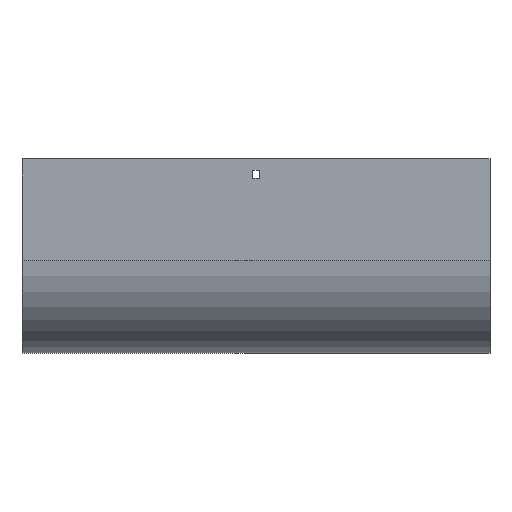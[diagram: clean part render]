
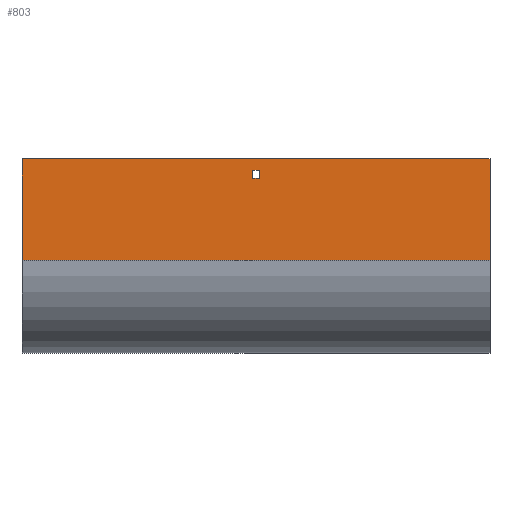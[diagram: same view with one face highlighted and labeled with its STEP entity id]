
A CAD part, front view. The second image highlights one B-rep face of the part: STEP entity #803.
In plain terms, the highlighted planar face has unit normal (0, -1, 0).
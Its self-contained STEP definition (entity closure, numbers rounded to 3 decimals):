
#19 = ORIENTED_EDGE ( 'NONE', *, *, #1039, .T. ) ;
#20 = FACE_OUTER_BOUND ( 'NONE', #1364, .T. ) ;
#28 = FACE_BOUND ( 'NONE', #74, .T. ) ;
#38 = LINE ( 'NONE', #1532, #1752 ) ;
#49 = CARTESIAN_POINT ( 'NONE',  ( -3.25, -79., -21. ) ) ;
#74 = EDGE_LOOP ( 'NONE', ( #1450, #1060, #19, #278 ) ) ;
#130 = CARTESIAN_POINT ( 'NONE',  ( -3.25, -79., -12. ) ) ;
#188 = DIRECTION ( 'NONE',  ( -1., 0., 0. ) ) ;
#204 = CARTESIAN_POINT ( 'NONE',  ( -3.25, -79., -12. ) ) ;
#227 = AXIS2_PLACEMENT_3D ( 'NONE', #907, #935, #1520 ) ;
#272 = DIRECTION ( 'NONE',  ( -1., 0., 0. ) ) ;
#278 = ORIENTED_EDGE ( 'NONE', *, *, #880, .T. ) ;
#279 = EDGE_CURVE ( 'NONE', #1886, #370, #1586, .T. ) ;
#282 = CARTESIAN_POINT ( 'NONE',  ( 252., -79., -109. ) ) ;
#283 = CARTESIAN_POINT ( 'NONE',  ( -252., -79., 0. ) ) ;
#305 = VERTEX_POINT ( 'NONE', #844 ) ;
#314 = PLANE ( 'NONE',  #227 ) ;
#333 = CARTESIAN_POINT ( 'NONE',  ( 252., -79., 0. ) ) ;
#370 = VERTEX_POINT ( 'NONE', #1283 ) ;
#607 = LINE ( 'NONE', #282, #635 ) ;
#635 = VECTOR ( 'NONE', #884, 1000. ) ;
#690 = DIRECTION ( 'NONE',  ( 1., 0., 0. ) ) ;
#752 = CARTESIAN_POINT ( 'NONE',  ( -3.25, -79., -21. ) ) ;
#778 = CARTESIAN_POINT ( 'NONE',  ( -252., -79., -109. ) ) ;
#790 = CARTESIAN_POINT ( 'NONE',  ( 3.25, -79., -21. ) ) ;
#803 = ADVANCED_FACE ( 'NONE', ( #28, #20 ), #314, .F. ) ;
#842 = VERTEX_POINT ( 'NONE', #790 ) ;
#844 = CARTESIAN_POINT ( 'NONE',  ( 252., -79., 0. ) ) ;
#880 = EDGE_CURVE ( 'NONE', #1573, #842, #38, .T. ) ;
#884 = DIRECTION ( 'NONE',  ( 0., 0., -1. ) ) ;
#885 = EDGE_CURVE ( 'NONE', #305, #1138, #1820, .T. ) ;
#893 = VECTOR ( 'NONE', #188, 1000. ) ;
#898 = LINE ( 'NONE', #752, #1427 ) ;
#907 = CARTESIAN_POINT ( 'NONE',  ( 252., -79., -109. ) ) ;
#911 = EDGE_CURVE ( 'NONE', #976, #1107, #898, .T. ) ;
#935 = DIRECTION ( 'NONE',  ( 0., 1., 0. ) ) ;
#976 = VERTEX_POINT ( 'NONE', #49 ) ;
#1039 = EDGE_CURVE ( 'NONE', #1107, #1573, #1711, .T. ) ;
#1060 = ORIENTED_EDGE ( 'NONE', *, *, #911, .T. ) ;
#1107 = VERTEX_POINT ( 'NONE', #130 ) ;
#1116 = ORIENTED_EDGE ( 'NONE', *, *, #279, .F. ) ;
#1117 = ORIENTED_EDGE ( 'NONE', *, *, #1621, .F. ) ;
#1138 = VERTEX_POINT ( 'NONE', #283 ) ;
#1202 = DIRECTION ( 'NONE',  ( 0., 0., 1. ) ) ;
#1218 = DIRECTION ( 'NONE',  ( -1., 0., 0. ) ) ;
#1239 = EDGE_CURVE ( 'NONE', #842, #976, #1808, .T. ) ;
#1272 = ORIENTED_EDGE ( 'NONE', *, *, #885, .T. ) ;
#1283 = CARTESIAN_POINT ( 'NONE',  ( -252., -79., -109. ) ) ;
#1364 = EDGE_LOOP ( 'NONE', ( #1867, #1116, #1117, #1272 ) ) ;
#1375 = DIRECTION ( 'NONE',  ( 0., 0., -1. ) ) ;
#1427 = VECTOR ( 'NONE', #1202, 1000. ) ;
#1450 = ORIENTED_EDGE ( 'NONE', *, *, #1239, .T. ) ;
#1455 = VECTOR ( 'NONE', #1218, 1000. ) ;
#1460 = CARTESIAN_POINT ( 'NONE',  ( 252., -79., -109. ) ) ;
#1498 = DIRECTION ( 'NONE',  ( 0., 0., -1. ) ) ;
#1520 = DIRECTION ( 'NONE',  ( 0., 0., 1. ) ) ;
#1532 = CARTESIAN_POINT ( 'NONE',  ( 3.25, -79., -21. ) ) ;
#1569 = VECTOR ( 'NONE', #272, 1000. ) ;
#1573 = VERTEX_POINT ( 'NONE', #1751 ) ;
#1586 = LINE ( 'NONE', #1626, #1569 ) ;
#1621 = EDGE_CURVE ( 'NONE', #305, #1886, #607, .T. ) ;
#1626 = CARTESIAN_POINT ( 'NONE',  ( 252., -79., -109. ) ) ;
#1682 = CARTESIAN_POINT ( 'NONE',  ( -3.25, -79., -21. ) ) ;
#1687 = EDGE_CURVE ( 'NONE', #1138, #370, #1834, .T. ) ;
#1711 = LINE ( 'NONE', #204, #1714 ) ;
#1714 = VECTOR ( 'NONE', #690, 1000. ) ;
#1744 = VECTOR ( 'NONE', #1375, 1000. ) ;
#1751 = CARTESIAN_POINT ( 'NONE',  ( 3.25, -79., -12. ) ) ;
#1752 = VECTOR ( 'NONE', #1498, 1000. ) ;
#1808 = LINE ( 'NONE', #1682, #1455 ) ;
#1820 = LINE ( 'NONE', #333, #893 ) ;
#1834 = LINE ( 'NONE', #778, #1744 ) ;
#1867 = ORIENTED_EDGE ( 'NONE', *, *, #1687, .T. ) ;
#1886 = VERTEX_POINT ( 'NONE', #1460 ) ;
